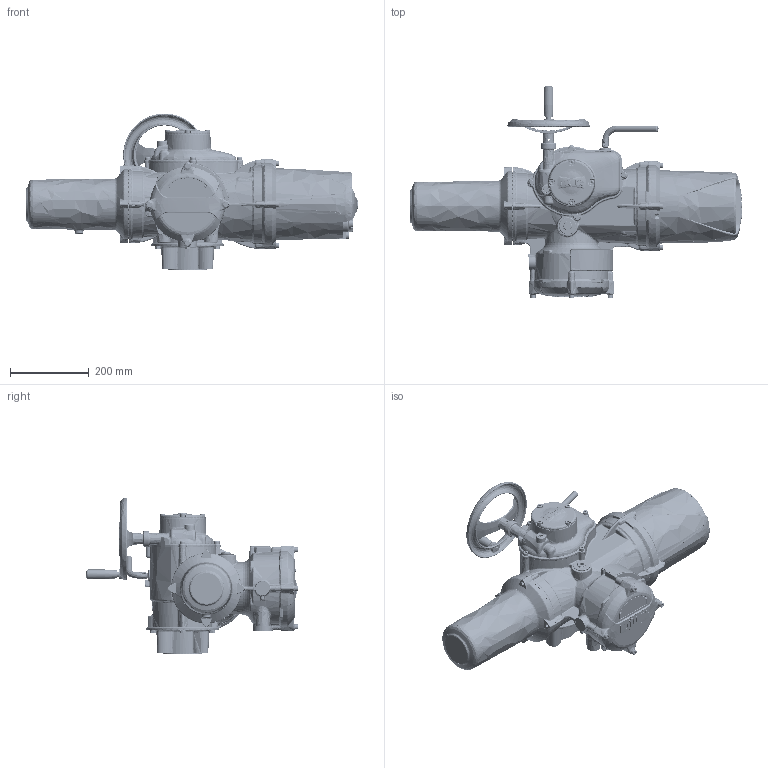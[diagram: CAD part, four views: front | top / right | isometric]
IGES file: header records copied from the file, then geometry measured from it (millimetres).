
Start section: C
Global section: file name: IQ3H-2SP-SHW-B1-1.igs; native system: By Siemens PLM Incorporated; preprocessor: XPlus GENERIC/IGES 23.0.57; author: Author; organization: Title; date: 20210329.103613; units: millimetre
Bounding box: 843.5 x 537.85 x 398.3 mm (x, y, z)
Surface area: 1245160.3 mm2 (no closed solid volume)
Topology: 0 solids, 0 shells, 6285 faces, 34417 edges, 34120 vertices
Faces by surface type: bspline 6285
